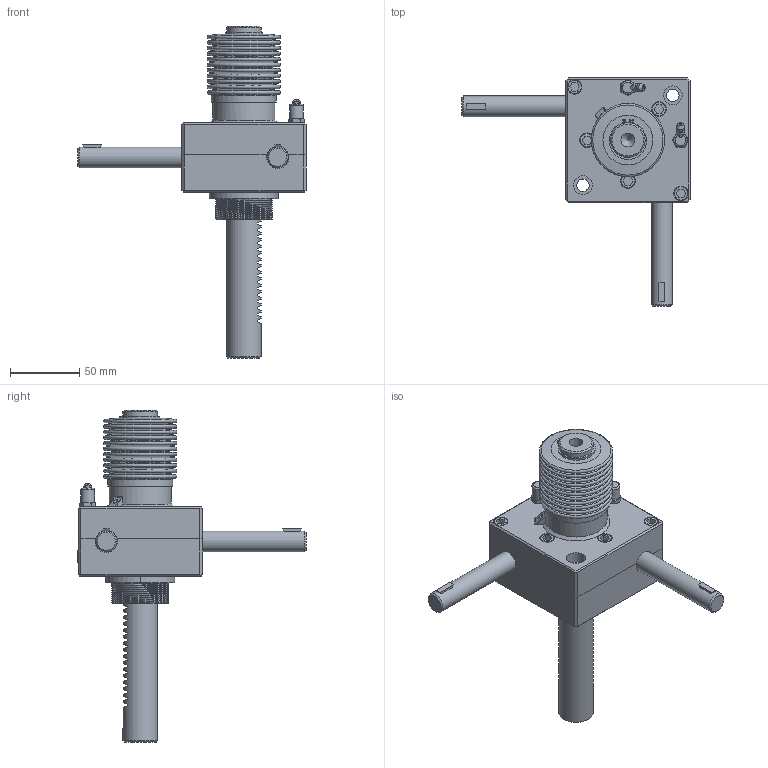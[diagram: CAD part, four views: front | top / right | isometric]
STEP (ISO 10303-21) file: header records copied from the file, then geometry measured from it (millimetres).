
FILE_DESCRIPTION(('STEP AP203'),'1');
FILE_NAME('SP1-500CJ-100ST.stp','2016-08-18T01:52:03',(' '),(' '),'Spatial InterOp 3D',' ',' ');
FILE_SCHEMA(('CONFIG_CONTROL_DESIGN'));
Length unit declared in the file: millimetre
Products named in the file (42): SP1-500CJ-100ST; SnapRing-23.8Pie; Rack Gear(SP-500C); Bellow(SP-500); Body-Part; Nipple; Bolt; key; Shaft; Gear Box(Lower); Body_stand by; Gear Box(Upper); RJ05-4SCJ-610X600-100ST_CAP; LABEL-B.1; ___; 파트18; __ SP500
Assembly tree (41 placements, depth 6):
  SP1-500CJ-100ST
    SnapRing-23.8Pie
    Rack Gear(SP-500C)
    Bellow(SP-500)
    Body-Part
      Nipple
      Nipple
      Bolt
      Bolt
      Bolt
      Bolt
      Bolt
      key
      key
      Shaft
      Shaft
      Gear Box(Lower)
        Body_stand by
        Body_stand by
        Body_stand by
        Body_stand by
        Body_stand by
        Body_stand by
        Body_stand by
        Body_stand by
        Body_stand by
        Body_stand by
        Body_stand by
        Body_stand by
        Body_stand by
        Body_stand by
        Body_stand by
        Body_stand by
        Body_stand by
        Body_stand by
        Body_stand by
      Gear Box(Upper)
      __ SP500
        ___
          RJ05-4SCJ-610X600-100ST_CAP
            LABEL-B.1
          파트18
Bounding box: 165 x 165.22 x 240 mm (x, y, z)
Volume: 320510.2 mm3; surface area: 202100 mm2
Topology: 26 solids, 226 shells, 2549 faces, 7590 edges, 5355 vertices
Faces by surface type: plane 2133, cylinder 181, cone 86, bspline 46, revolution 42, extrusion 38, torus 22, sphere 1
Full cylindrical faces by diameter (mm): 1.587 x2, 4.8 x2, 6 x7, 7 x5, 9 x2, 9.886 x2, 10 x1, 10.5 x10, 13.5 x2, 15 x2, 23.8 x1, 25 x14, 26 x1, 28 x1, 28.3 x1, 29.5 x1, 42.5 x1, 45 x3, 47 x1
Entity records: 92135 total; most frequent: CARTESIAN_POINT 23333, ORIENTED_EDGE 13544, DIRECTION 12848, EDGE_CURVE 7296, VECTOR 6152, LINE 6114, VERTEX_POINT 5274, AXIS2_PLACEMENT_3D 3327
